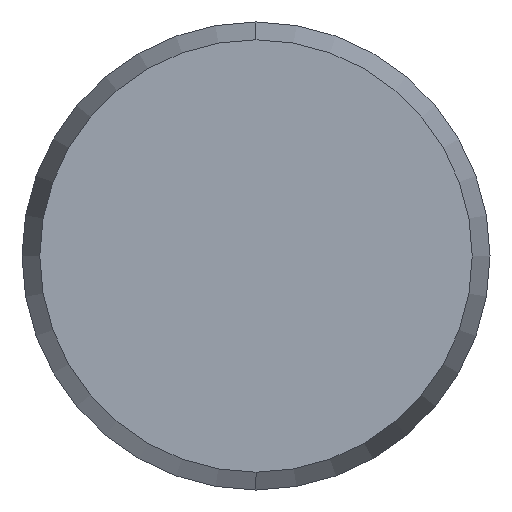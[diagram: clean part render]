
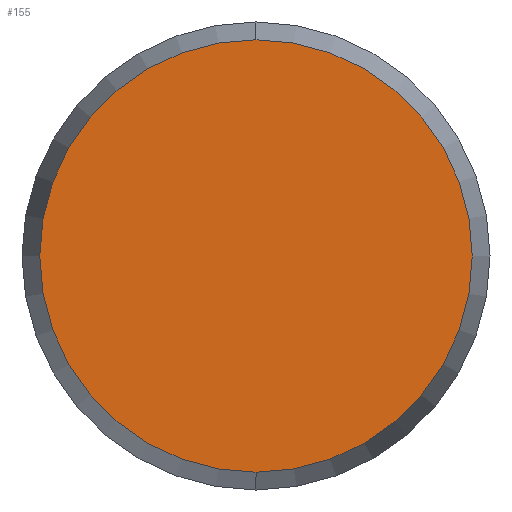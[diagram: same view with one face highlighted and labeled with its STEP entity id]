
A CAD part, left-side view. The second image highlights one B-rep face of the part: STEP entity #155.
In plain terms, the highlighted planar face has unit normal (-1, 0, 0).
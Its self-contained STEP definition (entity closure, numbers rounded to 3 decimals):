
#132 = EDGE_CURVE ( 'NONE', #133, #134, #184, .T. ) ;
#133 = VERTEX_POINT ( 'NONE', #179 ) ;
#134 = VERTEX_POINT ( 'NONE', #178 ) ;
#155 = ADVANCED_FACE ( 'NONE', ( #177 ), #176, .F. ) ;
#156 = EDGE_LOOP ( 'NONE', ( #157, #158 ) ) ;
#157 = ORIENTED_EDGE ( 'NONE', *, *, #132, .F. ) ;
#158 = ORIENTED_EDGE ( 'NONE', *, *, #162, .F. ) ;
#162 = EDGE_CURVE ( 'NONE', #134, #133, #170, .T. ) ;
#166 = DIRECTION ( 'NONE',  ( 0., 0., -1. ) ) ;
#167 = DIRECTION ( 'NONE',  ( 1., 0., 0. ) ) ;
#168 = CARTESIAN_POINT ( 'NONE',  ( -8., 0., 0. ) ) ;
#169 = AXIS2_PLACEMENT_3D ( 'NONE', #168, #167, #166 ) ;
#170 = CIRCLE ( 'NONE', #169, 5.544 ) ;
#172 = DIRECTION ( 'NONE',  ( 0., 0., -1. ) ) ;
#173 = DIRECTION ( 'NONE',  ( 1., 0., 0. ) ) ;
#174 = CARTESIAN_POINT ( 'NONE',  ( -8., 0., 0. ) ) ;
#175 = AXIS2_PLACEMENT_3D ( 'NONE', #174, #173, #172 ) ;
#176 = PLANE ( 'NONE',  #175 ) ;
#177 = FACE_OUTER_BOUND ( 'NONE', #156, .T. ) ;
#178 = CARTESIAN_POINT ( 'NONE',  ( -8., 0., -5.544 ) ) ;
#179 = CARTESIAN_POINT ( 'NONE',  ( -8., 0., 5.544 ) ) ;
#180 = DIRECTION ( 'NONE',  ( 0., 0., -1. ) ) ;
#181 = DIRECTION ( 'NONE',  ( 1., 0., 0. ) ) ;
#182 = CARTESIAN_POINT ( 'NONE',  ( -8., 0., 0. ) ) ;
#183 = AXIS2_PLACEMENT_3D ( 'NONE', #182, #181, #180 ) ;
#184 = CIRCLE ( 'NONE', #183, 5.544 ) ;
